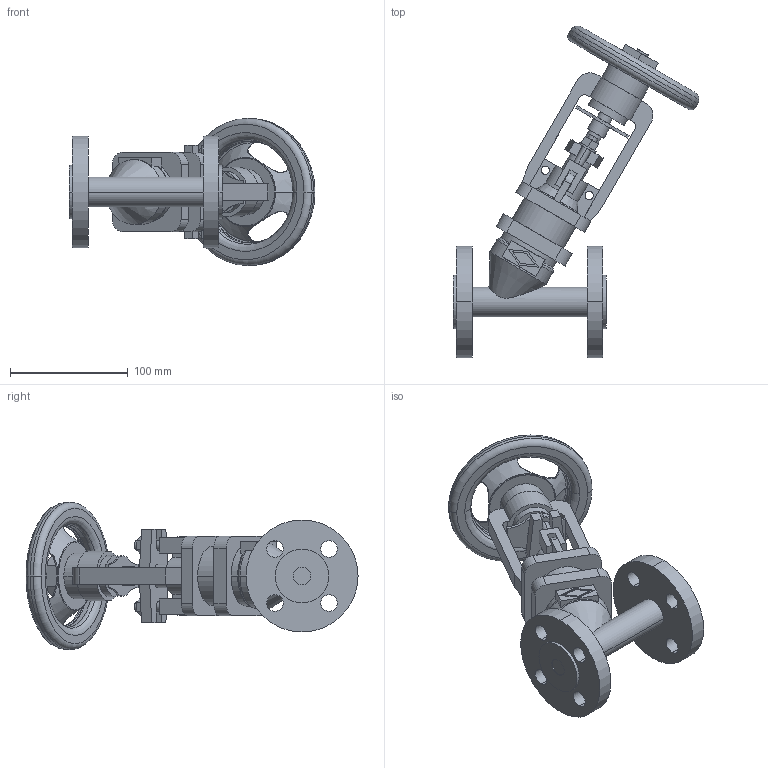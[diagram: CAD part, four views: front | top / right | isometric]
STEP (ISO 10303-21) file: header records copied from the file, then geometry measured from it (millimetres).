
FILE_DESCRIPTION(('OneSpaceDesigner STEP Export'),'2;1');
FILE_NAME('c000004390.stp','2010-05-07T 9:35:31',(''),(''),'OneSpace Designer STEP processor for AP214 (Solid Model)','OneSpace Modeling 15.50B 03-Nov-2007 (C) CoCreate Software GmbH','');
FILE_SCHEMA(('AUTOMOTIVE_DESIGN { 1 0 10303 214 1 1 1 1 }'));
Length unit declared in the file: millimetre
Products named in the file (1): 1
Bounding box: 208.71 x 281.7 x 125 mm (x, y, z)
Volume: 718128.8 mm3; surface area: 142383 mm2
Topology: 1 solids, 1 shells, 293 faces, 778 edges, 510 vertices
Faces by surface type: plane 140, cylinder 111, torus 27, cone 15
Entity records: 11440 total; most frequent: CARTESIAN_POINT 2189, ORIENTED_EDGE 1548, DIRECTION 1281, EDGE_CURVE 774, VERTEX_POINT 506, AXIS2_PLACEMENT_3D 430, VECTOR 421, LINE 421
